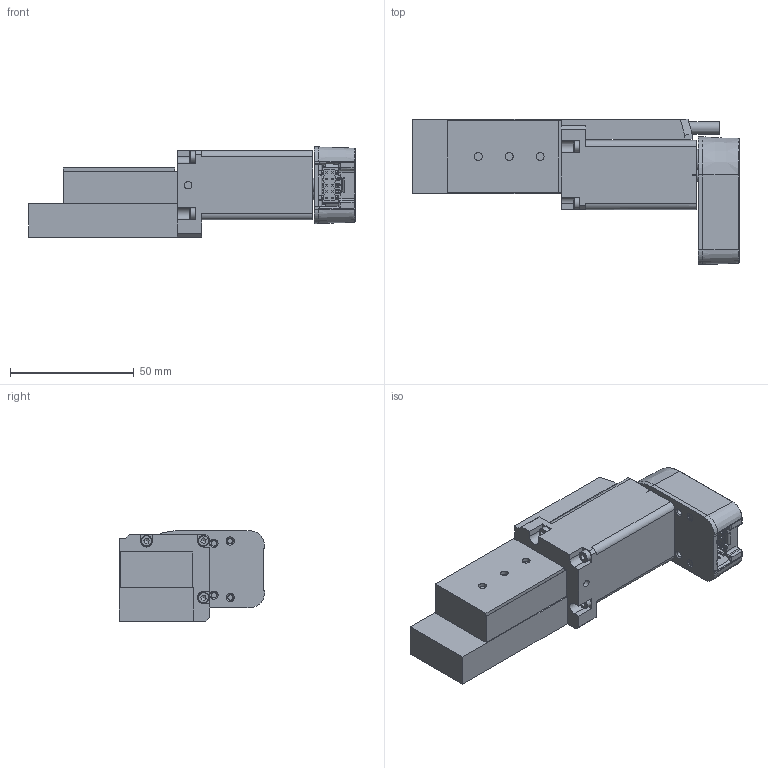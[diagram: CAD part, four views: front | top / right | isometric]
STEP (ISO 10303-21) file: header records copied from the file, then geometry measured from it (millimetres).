
FILE_DESCRIPTION(/* description */ (''),/* implementation_level */ '2;1');
FILE_NAME(/* name */ 'U:\KONSTRUKTORIAI\DOKUMENTACIJA\8\8MT173\8MT173-10\STEP\8MT173-10-28-MEn1.stp',/* time_stamp */ '2023-05-23T13:34:15+03:00',/* author */ ('dsgn31'),/* organization */ (''),/* preprocessor_version */ 'ST-DEVELOPER v15.2',/* originating_system */ 'Autodesk Inventor 2014',/* authorisation */ '');
FILE_SCHEMA (('CONFIG_CONTROL_DESIGN'));
Length unit declared in the file: millimetre
Products named in the file (1): 8MT173-10-28-MEn1_Shrinkwrap_1
Bounding box: 132.09 x 58.73 x 36.53 mm (x, y, z)
Volume: 115831.4 mm3; surface area: 31879.7 mm2
Topology: 3 solids, 3 shells, 1369 faces, 3490 edges, 2130 vertices
Faces by surface type: plane 773, cylinder 322, cone 155, bspline 82, torus 19, sphere 18
Full cylindrical faces by diameter (mm): 0.813 x5, 1.567 x2, 1.981 x7, 2.261 x2, 2.845 x38, 3 x1, 3.175 x2, 3.2 x3, 3.302 x2, 4.5 x5, 4.953 x2, 5 x1, 5.2 x2, 6 x1
Entity records: 42097 total; most frequent: CARTESIAN_POINT 8807, DIRECTION 6556, ORIENTED_EDGE 6398, EDGE_CURVE 3198, AXIS2_PLACEMENT_3D 2197, LINE 2162, VECTOR 2162, VERTEX_POINT 2088
